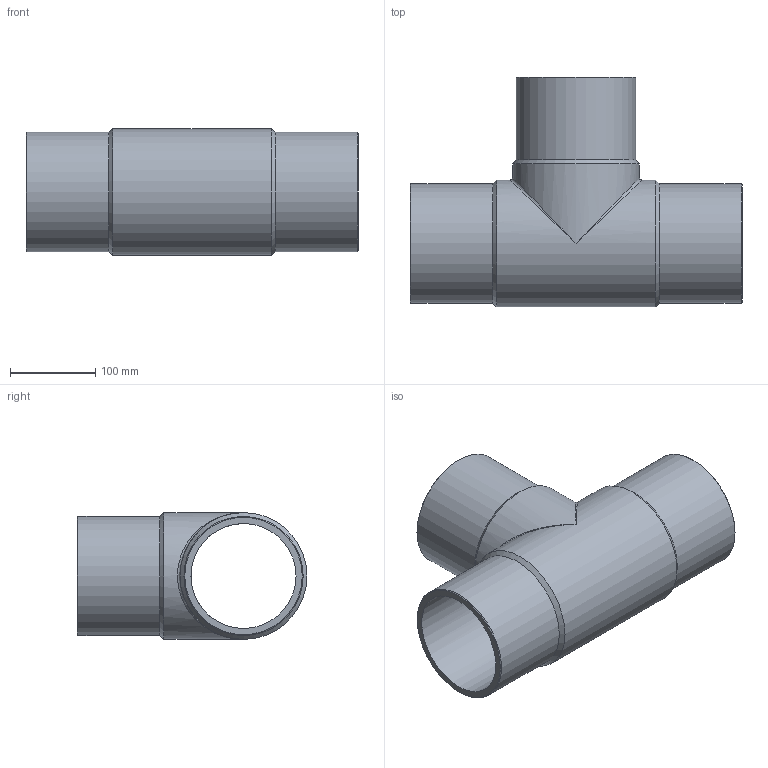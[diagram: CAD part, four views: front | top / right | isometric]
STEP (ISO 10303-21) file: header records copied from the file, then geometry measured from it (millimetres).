
FILE_DESCRIPTION(/* description */ ('Unknown'),/* implementation_level */ '2;1');
FILE_NAME(/* name */ 'TP140B',/* time_stamp */ '2021-08-13T14:43:35+02:00',/* author */ ('Unknown'),/* organization */ ('Unknown'),/* preprocessor_version */ 'ST-DEVELOPER v16.7',/* originating_system */ 'Solid Edge',/* authorisation */ 'Unknown');
FILE_SCHEMA (('AUTOMOTIVE_DESIGN {1 0 10303 214 3 1 1}'));
Length unit declared in the file: millimetre
Products named in the file (1): TP140B
Bounding box: 390 x 270 x 149 mm (x, y, z)
Volume: 2120218.7 mm3; surface area: 429397.5 mm2
Topology: 1 solids, 1 shells, 18 faces, 44 edges, 23 vertices
Faces by surface type: cylinder 7, cone 6, plane 3, bspline 2
Full cylindrical faces by diameter (mm): 123.4 x2, 140 x3, 149 x2
Entity records: 516 total; most frequent: CARTESIAN_POINT 159, DIRECTION 76, ORIENTED_EDGE 42, AXIS2_PLACEMENT_3D 38, EDGE_LOOP 36, FACE_BOUND 36, EDGE_CURVE 21, VERTEX_POINT 19
